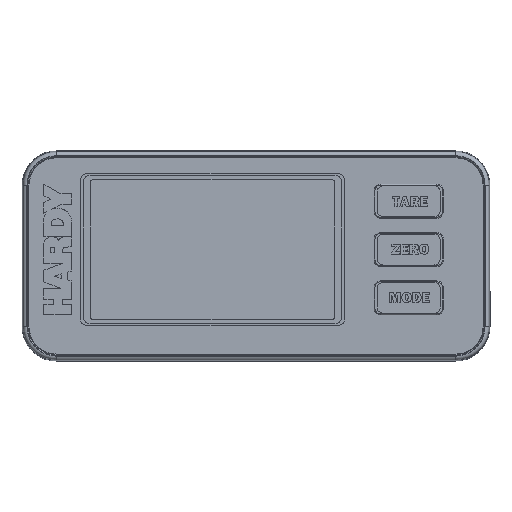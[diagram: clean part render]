
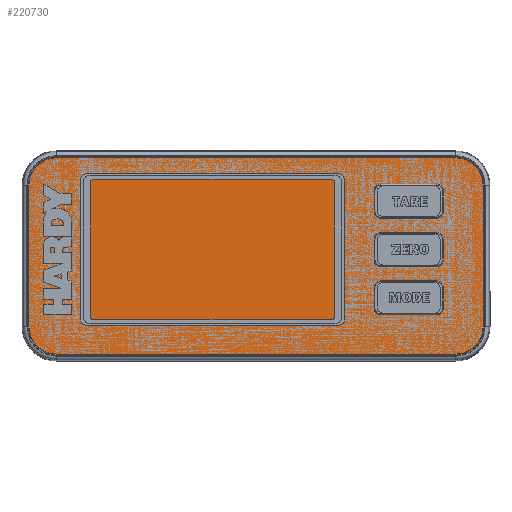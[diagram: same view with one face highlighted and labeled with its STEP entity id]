
A CAD part, top view. The second image highlights one B-rep face of the part: STEP entity #220730.
In plain terms, the highlighted planar face has unit normal (0, 0, 1).
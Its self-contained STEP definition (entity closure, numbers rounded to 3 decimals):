
#441 = DIRECTION ( 'NONE',  ( 0., 0., 1. ) ) ;
#947 = DIRECTION ( 'NONE',  ( 1., 0., 0. ) ) ;
#3149 = EDGE_CURVE ( 'NONE', #175893, #176350, #21736, .T. ) ;
#8515 = DIRECTION ( 'NONE',  ( 0., 0., 1. ) ) ;
#8847 = CARTESIAN_POINT ( 'NONE',  ( 89.459, 27.94, 0.152 ) ) ;
#13654 = ORIENTED_EDGE ( 'NONE', *, *, #174745, .T. ) ;
#20369 = PLANE ( 'NONE',  #125547 ) ;
#21736 = LINE ( 'NONE', #231426, #296746 ) ;
#38426 = VECTOR ( 'NONE', #191894, 1000. ) ;
#39015 = AXIS2_PLACEMENT_3D ( 'NONE', #57519, #8515, #100439 ) ;
#41631 = DIRECTION ( 'NONE',  ( 0., -1., 0. ) ) ;
#46956 = CARTESIAN_POINT ( 'NONE',  ( 78.74, -38.659, 0.152 ) ) ;
#51080 = EDGE_CURVE ( 'NONE', #176350, #252356, #297553, .T. ) ;
#57519 = CARTESIAN_POINT ( 'NONE',  ( -78.74, -27.94, 0.152 ) ) ;
#60206 = CARTESIAN_POINT ( 'NONE',  ( 78.74, 27.94, 0.152 ) ) ;
#63719 = CIRCLE ( 'NONE', #234733, 10.719 ) ;
#64548 = AXIS2_PLACEMENT_3D ( 'NONE', #279541, #163283, #947 ) ;
#69553 = CARTESIAN_POINT ( 'NONE',  ( -78.74, 38.659, 0.152 ) ) ;
#72360 = CARTESIAN_POINT ( 'NONE',  ( -89.459, 27.94, 0.152 ) ) ;
#75249 = VERTEX_POINT ( 'NONE', #156347 ) ;
#96529 = CARTESIAN_POINT ( 'NONE',  ( 89.459, -27.94, 0.152 ) ) ;
#100437 = VERTEX_POINT ( 'NONE', #255208 ) ;
#100439 = DIRECTION ( 'NONE',  ( 1., 0., 0. ) ) ;
#104428 = VERTEX_POINT ( 'NONE', #72360 ) ;
#107462 = DIRECTION ( 'NONE',  ( 1., 0., 0. ) ) ;
#113254 = ORIENTED_EDGE ( 'NONE', *, *, #212714, .T. ) ;
#117389 = VECTOR ( 'NONE', #41631, 1000. ) ;
#124804 = ORIENTED_EDGE ( 'NONE', *, *, #165298, .T. ) ;
#125547 = AXIS2_PLACEMENT_3D ( 'NONE', #302095, #441, #139825 ) ;
#126249 = CARTESIAN_POINT ( 'NONE',  ( -78.74, 27.94, 0.152 ) ) ;
#139825 = DIRECTION ( 'NONE',  ( 1., 0., 0. ) ) ;
#142456 = EDGE_CURVE ( 'NONE', #252356, #100437, #279231, .T. ) ;
#145529 = VERTEX_POINT ( 'NONE', #192890 ) ;
#153655 = DIRECTION ( 'NONE',  ( 1., 0., 0. ) ) ;
#156347 = CARTESIAN_POINT ( 'NONE',  ( -78.74, -38.659, 0.152 ) ) ;
#163283 = DIRECTION ( 'NONE',  ( 0., 0., 1. ) ) ;
#165298 = EDGE_CURVE ( 'NONE', #100437, #104428, #63719, .T. ) ;
#167616 = EDGE_CURVE ( 'NONE', #145529, #75249, #190314, .T. ) ;
#173307 = ORIENTED_EDGE ( 'NONE', *, *, #3149, .T. ) ;
#174745 = EDGE_CURVE ( 'NONE', #75249, #190130, #199214, .T. ) ;
#175893 = VERTEX_POINT ( 'NONE', #96529 ) ;
#176350 = VERTEX_POINT ( 'NONE', #8847 ) ;
#179663 = FACE_OUTER_BOUND ( 'NONE', #270935, .T. ) ;
#187767 = ORIENTED_EDGE ( 'NONE', *, *, #216900, .T. ) ;
#187847 = ORIENTED_EDGE ( 'NONE', *, *, #167616, .T. ) ;
#190130 = VERTEX_POINT ( 'NONE', #46956 ) ;
#190314 = CIRCLE ( 'NONE', #39015, 10.719 ) ;
#191894 = DIRECTION ( 'NONE',  ( -1., 0., 0. ) ) ;
#192515 = LINE ( 'NONE', #285866, #117389 ) ;
#192890 = CARTESIAN_POINT ( 'NONE',  ( -89.459, -27.94, 0.152 ) ) ;
#194657 = CARTESIAN_POINT ( 'NONE',  ( -78.74, -38.659, 0.152 ) ) ;
#199214 = LINE ( 'NONE', #194657, #218845 ) ;
#201315 = CIRCLE ( 'NONE', #64548, 10.719 ) ;
#204605 = AXIS2_PLACEMENT_3D ( 'NONE', #60206, #219411, #153655 ) ;
#212714 = EDGE_CURVE ( 'NONE', #104428, #145529, #192515, .T. ) ;
#212981 = DIRECTION ( 'NONE',  ( 0., 1., 0. ) ) ;
#216900 = EDGE_CURVE ( 'NONE', #190130, #175893, #201315, .T. ) ;
#218845 = VECTOR ( 'NONE', #107462, 1000. ) ;
#219411 = DIRECTION ( 'NONE',  ( 0., 0., 1. ) ) ;
#220730 = ADVANCED_FACE ( 'NONE', ( #179663 ), #20369, .T. ) ;
#231426 = CARTESIAN_POINT ( 'NONE',  ( 89.459, 27.94, 0.152 ) ) ;
#234733 = AXIS2_PLACEMENT_3D ( 'NONE', #126249, #266916, #269941 ) ;
#252356 = VERTEX_POINT ( 'NONE', #259932 ) ;
#255208 = CARTESIAN_POINT ( 'NONE',  ( -78.74, 38.659, 0.152 ) ) ;
#259932 = CARTESIAN_POINT ( 'NONE',  ( 78.74, 38.659, 0.152 ) ) ;
#266916 = DIRECTION ( 'NONE',  ( 0., 0., 1. ) ) ;
#269941 = DIRECTION ( 'NONE',  ( 1., 0., 0. ) ) ;
#270935 = EDGE_LOOP ( 'NONE', ( #124804, #113254, #187847, #13654, #187767, #173307, #293527, #299415 ) ) ;
#279231 = LINE ( 'NONE', #69553, #38426 ) ;
#279541 = CARTESIAN_POINT ( 'NONE',  ( 78.74, -27.94, 0.152 ) ) ;
#285866 = CARTESIAN_POINT ( 'NONE',  ( -89.459, 27.94, 0.152 ) ) ;
#293527 = ORIENTED_EDGE ( 'NONE', *, *, #51080, .T. ) ;
#296746 = VECTOR ( 'NONE', #212981, 1000. ) ;
#297553 = CIRCLE ( 'NONE', #204605, 10.719 ) ;
#299415 = ORIENTED_EDGE ( 'NONE', *, *, #142456, .T. ) ;
#302095 = CARTESIAN_POINT ( 'NONE',  ( -78.74, 27.94, 0.152 ) ) ;
